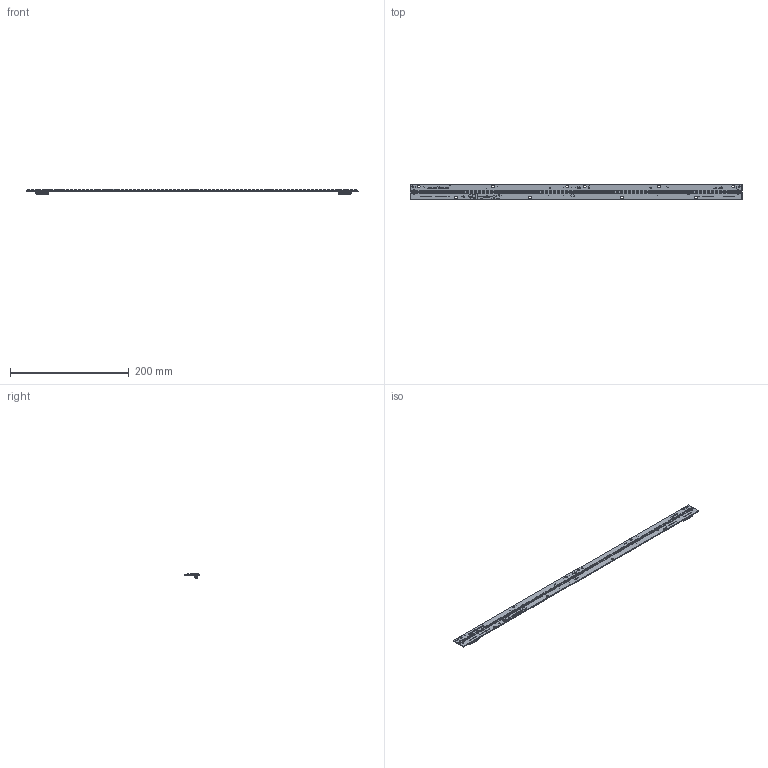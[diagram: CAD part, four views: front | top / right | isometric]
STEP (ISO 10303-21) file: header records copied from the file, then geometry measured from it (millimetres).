
FILE_DESCRIPTION (( 'STEP AP203' ), '1' );
FILE_NAME ('24.700.022.01 B PCBA 2 FOOT LUMENETIX BOTTOM CONNECTOR.STEP', '2017-01-10T00:17:10', ( 'Rob' ), ( '' ), 'SwSTEP 2.0', 'SolidWorks 2016', '' );
FILE_SCHEMA (( 'CONFIG_CONTROL_DESIGN' ));
Length unit declared in the file: millimetre
Products named in the file (8): DIRECTION ARROW; 462.038 16 PIN CONNECTOR 8-188275-6; 22_700_022_01_REVA_REVIEW_102616A emn file; 67.700.002.02 A LTM2 INSULATOR PAD 2FT LX; 24.700.022.01 B PCBA 2 FOOT LUMENETIX BOTTOM CONNECTOR; 22.700.022.01 1 PCBA 2 FOOT LUMENETIX; lumileds 3535L; TEST PADS
Assembly tree (92 placements, depth 2):
  24.700.022.01 B PCBA 2 FOOT LUMENETIX BOTTOM CONNECTOR
    22.700.022.01 1 PCBA 2 FOOT LUMENETIX
    lumileds 3535L  x84
    TEST PADS
    DIRECTION ARROW  x2
    462.038 16 PIN CONNECTOR 8-188275-6  x2
    22_700_022_01_REVA_REVIEW_102616A emn file
    67.700.002.02 A LTM2 INSULATOR PAD 2FT LX
Bounding box: 560 x 24 x 8.58 mm (x, y, z)
Volume: 46597.7 mm3; surface area: 92311.5 mm2
Topology: 429 solids, 429 shells, 6022 faces, 15488 edges, 10324 vertices
Faces by surface type: plane 3638, cylinder 2384
Entity records: 113639 total; most frequent: DIRECTION 19871, CARTESIAN_POINT 18563, ORIENTED_EDGE 18278, EDGE_CURVE 9139, AXIS2_PLACEMENT_3D 7400, VERTEX_POINT 6092, EDGE_LOOP 5107, LINE 5071
